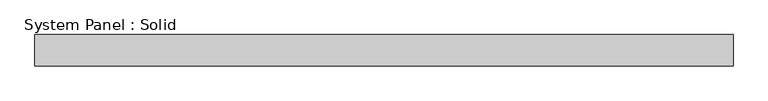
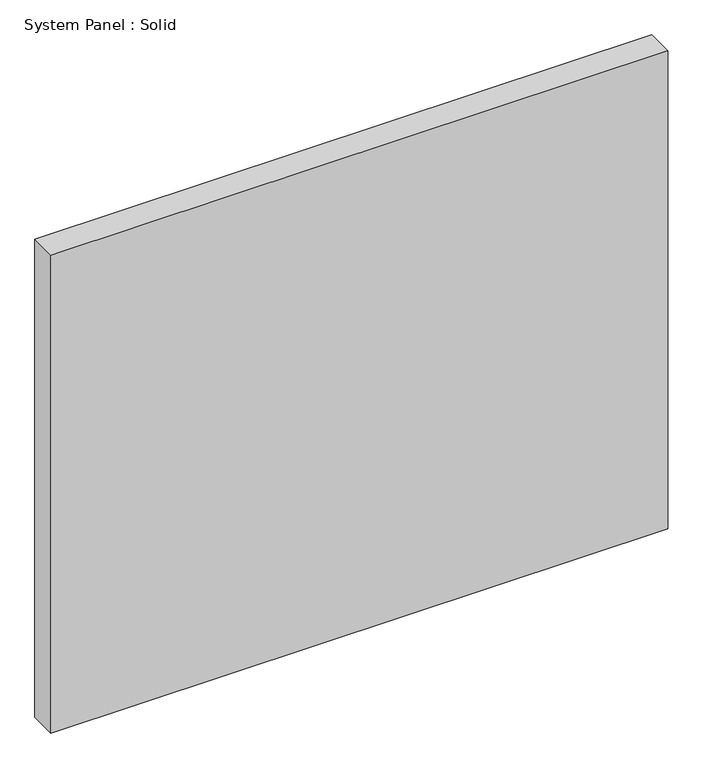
"""IFC4 building model written with IfcOpenShell, lengths in millimetres: plate geometry, System Panel : Solid."""

from ifc_helpers import new_model, si_unit, origin, origin_with_axes, place, context, project, spatial, polyline, outline, extrude, source, transform, mapped, element, save


def system_panel_solid_dc72b64a(model_context):
    return source(origin(), model_context, "Body", "SweptSolid", [
        extrude(outline(polyline([(705.1113156, -19.05), (-705.1113156, -19.05), (-705.1113156, 44.45), (705.1113156, 44.45), (705.1113156, -19.05)])), origin_with_axes(), (0.0, 0.0, 1.0), 1155.7),
    ])


if __name__ == "__main__":
    model = new_model("IFC4")
    model_context = context("Model", 3, world=origin())
    ifc_project = project(units=[si_unit("LENGTHUNIT", "METRE", prefix="MILLI")], contexts=[model_context])
    site = spatial("IfcSite", under=ifc_project)
    building = spatial("IfcBuilding", under=site)
    placement = place(None, origin())
    system_panel_solid_shape = system_panel_solid_dc72b64a(model_context)
    element("IfcPlate", 1, ObjectType="System Panel : Solid", at=placement, inside=building, context=model_context, shape_type="MappedRepresentation", body=[
        mapped(system_panel_solid_shape, transform((0.0, 0.0, 0.0), x_axis=(1.0, 0.0, 0.0), y_axis=(0.0, 1.0, 0.0), z_axis=(0.0, 0.0, 1.0))),
    ])
    save(model, "model.ifc")
